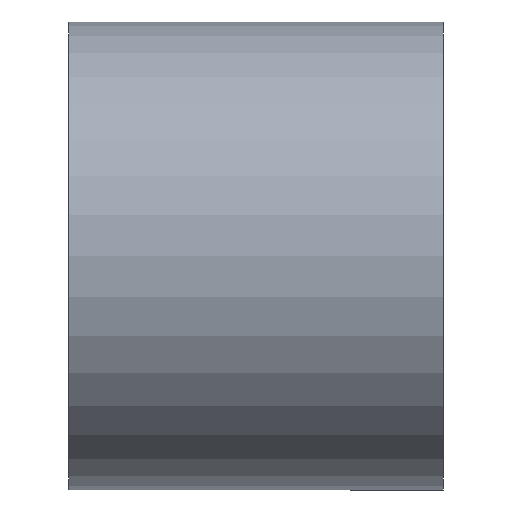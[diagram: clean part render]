
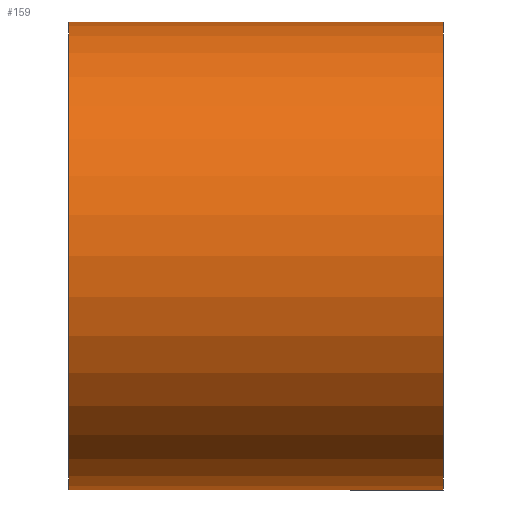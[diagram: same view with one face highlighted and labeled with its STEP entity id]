
A CAD part, front view. The second image highlights one B-rep face of the part: STEP entity #159.
In plain terms, the highlighted cylindrical face has radius 12.5 mm (diameter 25 mm), a partial arc.
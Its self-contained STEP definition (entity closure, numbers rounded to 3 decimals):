
#22 = AXIS2_PLACEMENT_3D ( 'NONE', #335, #112, #724 ) ;
#29 = EDGE_CURVE ( 'NONE', #150, #388, #188, .T. ) ;
#96 = EDGE_CURVE ( 'NONE', #173, #161, #542, .T. ) ;
#112 = DIRECTION ( 'NONE',  ( -1., 0., 0. ) ) ;
#130 = ORIENTED_EDGE ( 'NONE', *, *, #551, .T. ) ;
#144 = EDGE_LOOP ( 'NONE', ( #234, #130, #482, #330 ) ) ;
#150 = VERTEX_POINT ( 'NONE', #378 ) ;
#153 = FACE_OUTER_BOUND ( 'NONE', #144, .T. ) ;
#159 = ADVANCED_FACE ( 'NONE', ( #153 ), #274, .T. ) ;
#161 = VERTEX_POINT ( 'NONE', #213 ) ;
#173 = VERTEX_POINT ( 'NONE', #339 ) ;
#188 = LINE ( 'NONE', #484, #432 ) ;
#213 = CARTESIAN_POINT ( 'NONE',  ( -10., 0., -12.5 ) ) ;
#218 = CARTESIAN_POINT ( 'NONE',  ( 0., 0., 0. ) ) ;
#232 = CARTESIAN_POINT ( 'NONE',  ( 10., 0., 0. ) ) ;
#234 = ORIENTED_EDGE ( 'NONE', *, *, #96, .F. ) ;
#274 = CYLINDRICAL_SURFACE ( 'NONE', #546, 12.5 ) ;
#293 = DIRECTION ( 'NONE',  ( -1., 0., 0. ) ) ;
#330 = ORIENTED_EDGE ( 'NONE', *, *, #675, .F. ) ;
#335 = CARTESIAN_POINT ( 'NONE',  ( -10., 0., 0. ) ) ;
#339 = CARTESIAN_POINT ( 'NONE',  ( 10., 0., -12.5 ) ) ;
#378 = CARTESIAN_POINT ( 'NONE',  ( 10., 0., 12.5 ) ) ;
#388 = VERTEX_POINT ( 'NONE', #428 ) ;
#428 = CARTESIAN_POINT ( 'NONE',  ( -10., 0., 12.5 ) ) ;
#432 = VECTOR ( 'NONE', #655, 1000. ) ;
#433 = DIRECTION ( 'NONE',  ( -1., 0., 0. ) ) ;
#481 = CIRCLE ( 'NONE', #501, 12.5 ) ;
#482 = ORIENTED_EDGE ( 'NONE', *, *, #29, .T. ) ;
#484 = CARTESIAN_POINT ( 'NONE',  ( 0., 0., 12.5 ) ) ;
#497 = DIRECTION ( 'NONE',  ( -1., 0., 0. ) ) ;
#501 = AXIS2_PLACEMENT_3D ( 'NONE', #232, #293, #510 ) ;
#510 = DIRECTION ( 'NONE',  ( 0., 0., 1. ) ) ;
#538 = CIRCLE ( 'NONE', #22, 12.5 ) ;
#542 = LINE ( 'NONE', #597, #613 ) ;
#546 = AXIS2_PLACEMENT_3D ( 'NONE', #218, #497, #722 ) ;
#551 = EDGE_CURVE ( 'NONE', #173, #150, #481, .T. ) ;
#597 = CARTESIAN_POINT ( 'NONE',  ( 0., 0., -12.5 ) ) ;
#613 = VECTOR ( 'NONE', #433, 1000. ) ;
#655 = DIRECTION ( 'NONE',  ( -1., 0., 0. ) ) ;
#675 = EDGE_CURVE ( 'NONE', #161, #388, #538, .T. ) ;
#722 = DIRECTION ( 'NONE',  ( 0., 0., 1. ) ) ;
#724 = DIRECTION ( 'NONE',  ( 0., 0., 1. ) ) ;
